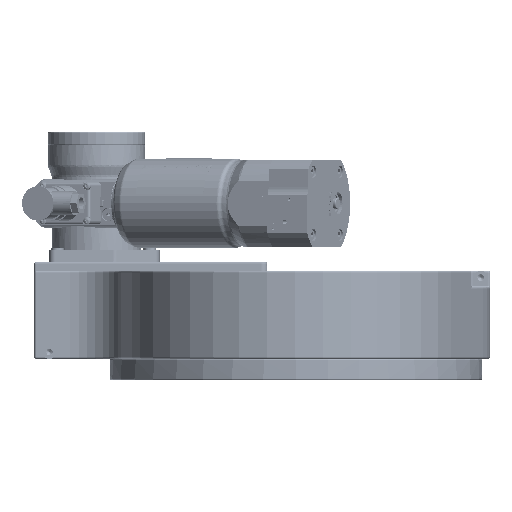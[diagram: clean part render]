
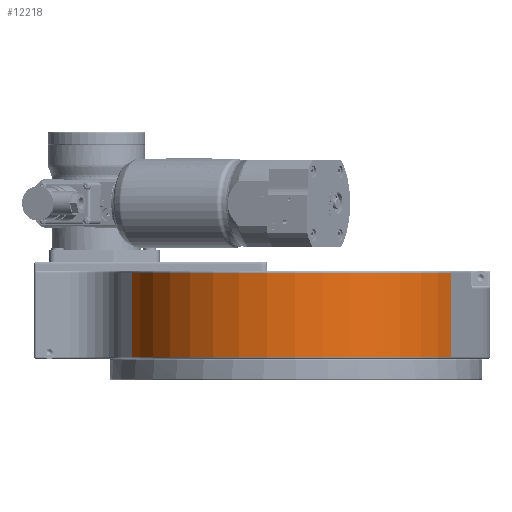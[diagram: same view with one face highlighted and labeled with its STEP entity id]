
A CAD part, front view. The second image highlights one B-rep face of the part: STEP entity #12218.
In plain terms, the highlighted cylindrical face has radius 135 mm (diameter 270 mm), a partial arc.
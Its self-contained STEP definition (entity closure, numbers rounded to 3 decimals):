
#8687=CYLINDRICAL_SURFACE('',#62049,135.);
#9573=FACE_OUTER_BOUND('',#28492,.T.);
#12218=ADVANCED_FACE('',(#9573),#8687,.T.);
#18177=LINE('',#88472,#21471);
#18199=LINE('',#88529,#21493);
#21471=VECTOR('',#69269,1.);
#21493=VECTOR('',#69313,1.);
#28492=EDGE_LOOP('',(#34522,#34523,#34524,#34525));
#34522=ORIENTED_EDGE('',*,*,#52635,.F.);
#34523=ORIENTED_EDGE('',*,*,#52637,.T.);
#34524=ORIENTED_EDGE('',*,*,#52608,.T.);
#34525=ORIENTED_EDGE('',*,*,#52638,.T.);
#47292=VERTEX_POINT('',#88473);
#47293=VERTEX_POINT('',#88474);
#47315=VERTEX_POINT('',#88528);
#47316=VERTEX_POINT('',#88530);
#52608=EDGE_CURVE('',#47292,#47293,#18177,.T.);
#52635=EDGE_CURVE('',#47315,#47316,#18199,.T.);
#52637=EDGE_CURVE('',#47315,#47292,#59151,.T.);
#52638=EDGE_CURVE('',#47293,#47316,#59152,.T.);
#59151=CIRCLE('',#62047,135.);
#59152=CIRCLE('',#62048,135.);
#62047=AXIS2_PLACEMENT_3D('',#88533,#69317,#69318);
#62048=AXIS2_PLACEMENT_3D('',#88534,#69319,#69320);
#62049=AXIS2_PLACEMENT_3D('',#88535,#69321,#69322);
#69269=DIRECTION('',(0.,0.,-1.));
#69313=DIRECTION('',(0.,0.,-1.));
#69317=DIRECTION('',(0.,0.,-1.));
#69318=DIRECTION('',(1.,0.,0.));
#69319=DIRECTION('',(0.,0.,1.));
#69320=DIRECTION('',(1.,0.,0.));
#69321=DIRECTION('',(0.,0.,-1.));
#69322=DIRECTION('',(-1.,0.,0.));
#88472=CARTESIAN_POINT('',(-132.05,-93.068,71.));
#88473=CARTESIAN_POINT('',(-132.05,-93.068,69.5));
#88474=CARTESIAN_POINT('',(-132.05,-93.068,1.5));
#88528=CARTESIAN_POINT('',(125.017,-115.948,69.5));
#88529=CARTESIAN_POINT('',(125.017,-115.948,71.));
#88530=CARTESIAN_POINT('',(125.017,-115.948,1.5));
#88533=CARTESIAN_POINT('',(0.,-65.,69.5));
#88534=CARTESIAN_POINT('',(0.,-65.,1.5));
#88535=CARTESIAN_POINT('',(0.,-65.,71.));
